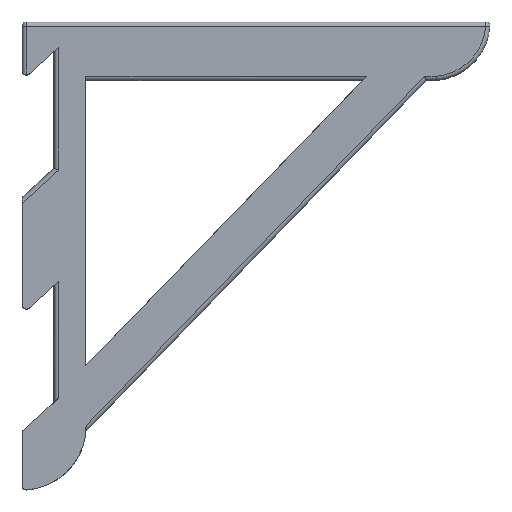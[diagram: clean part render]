
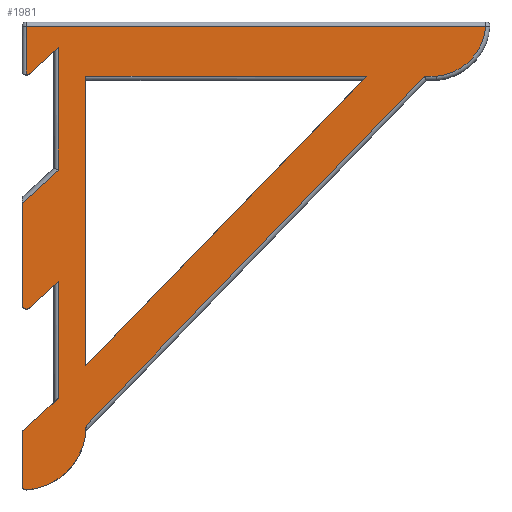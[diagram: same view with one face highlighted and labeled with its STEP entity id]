
A CAD part, top view. The second image highlights one B-rep face of the part: STEP entity #1981.
In plain terms, the highlighted planar face has unit normal (0, 0, 1).
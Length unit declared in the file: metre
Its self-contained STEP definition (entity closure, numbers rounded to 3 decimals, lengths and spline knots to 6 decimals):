
#92=CIRCLE('',#2109,0.019122);
#95=CIRCLE('',#2130,0.00127);
#96=CIRCLE('',#2131,0.00127);
#97=CIRCLE('',#2132,0.00127);
#98=CIRCLE('',#2133,0.016259);
#99=CIRCLE('',#2134,0.00127);
#333=ORIENTED_EDGE('',*,*,#901,.F.);
#334=ORIENTED_EDGE('',*,*,#927,.T.);
#335=ORIENTED_EDGE('',*,*,#928,.T.);
#336=ORIENTED_EDGE('',*,*,#807,.F.);
#337=ORIENTED_EDGE('',*,*,#929,.T.);
#338=ORIENTED_EDGE('',*,*,#912,.F.);
#339=ORIENTED_EDGE('',*,*,#930,.T.);
#340=ORIENTED_EDGE('',*,*,#918,.F.);
#341=ORIENTED_EDGE('',*,*,#931,.T.);
#342=ORIENTED_EDGE('',*,*,#920,.F.);
#343=ORIENTED_EDGE('',*,*,#932,.T.);
#344=ORIENTED_EDGE('',*,*,#879,.T.);
#345=ORIENTED_EDGE('',*,*,#933,.T.);
#346=ORIENTED_EDGE('',*,*,#934,.T.);
#347=ORIENTED_EDGE('',*,*,#935,.T.);
#348=ORIENTED_EDGE('',*,*,#936,.T.);
#349=ORIENTED_EDGE('',*,*,#937,.T.);
#350=ORIENTED_EDGE('',*,*,#938,.T.);
#351=ORIENTED_EDGE('',*,*,#939,.T.);
#352=ORIENTED_EDGE('',*,*,#925,.F.);
#353=ORIENTED_EDGE('',*,*,#871,.F.);
#807=EDGE_CURVE('',#1109,#1110,#1297,.T.);
#871=EDGE_CURVE('',#1173,#1169,#1330,.T.);
#879=EDGE_CURVE('',#1176,#1180,#92,.T.);
#901=EDGE_CURVE('',#1199,#1195,#1354,.T.);
#912=EDGE_CURVE('',#1208,#1204,#1364,.T.);
#918=EDGE_CURVE('',#1212,#1213,#1370,.T.);
#920=EDGE_CURVE('',#1214,#1215,#1371,.T.);
#925=EDGE_CURVE('',#1169,#1218,#1376,.T.);
#927=EDGE_CURVE('',#1199,#1219,#1377,.T.);
#928=EDGE_CURVE('',#1219,#1110,#1378,.F.);
#929=EDGE_CURVE('',#1109,#1204,#95,.T.);
#930=EDGE_CURVE('',#1208,#1213,#1379,.F.);
#931=EDGE_CURVE('',#1212,#1215,#96,.T.);
#932=EDGE_CURVE('',#1214,#1176,#97,.T.);
#933=EDGE_CURVE('',#1180,#1220,#1380,.F.);
#934=EDGE_CURVE('',#1220,#1221,#1381,.T.);
#935=EDGE_CURVE('',#1221,#1222,#98,.T.);
#936=EDGE_CURVE('',#1222,#1223,#1382,.F.);
#937=EDGE_CURVE('',#1223,#1224,#1383,.F.);
#938=EDGE_CURVE('',#1224,#1195,#99,.T.);
#939=EDGE_CURVE('',#1173,#1218,#1384,.T.);
#1109=VERTEX_POINT('',#2772);
#1110=VERTEX_POINT('',#2773);
#1169=VERTEX_POINT('',#2941);
#1173=VERTEX_POINT('',#2948);
#1176=VERTEX_POINT('',#2958);
#1180=VERTEX_POINT('',#2970);
#1195=VERTEX_POINT('',#3010);
#1199=VERTEX_POINT('',#3017);
#1204=VERTEX_POINT('',#3033);
#1208=VERTEX_POINT('',#3040);
#1212=VERTEX_POINT('',#3052);
#1213=VERTEX_POINT('',#3054);
#1214=VERTEX_POINT('',#3058);
#1215=VERTEX_POINT('',#3059);
#1218=VERTEX_POINT('',#3068);
#1219=VERTEX_POINT('',#3072);
#1220=VERTEX_POINT('',#3079);
#1221=VERTEX_POINT('',#3081);
#1222=VERTEX_POINT('',#3083);
#1223=VERTEX_POINT('',#3085);
#1224=VERTEX_POINT('',#3087);
#1297=LINE('',#2771,#1481);
#1330=LINE('',#2949,#1514);
#1354=LINE('',#3018,#1538);
#1364=LINE('',#3041,#1548);
#1370=LINE('',#3053,#1554);
#1371=LINE('',#3057,#1555);
#1376=LINE('',#3067,#1560);
#1377=LINE('',#3071,#1561);
#1378=LINE('',#3073,#1562);
#1379=LINE('',#3075,#1563);
#1380=LINE('',#3078,#1564);
#1381=LINE('',#3080,#1565);
#1382=LINE('',#3084,#1566);
#1383=LINE('',#3086,#1567);
#1384=LINE('',#3089,#1568);
#1481=VECTOR('',#2263,1.);
#1514=VECTOR('',#2312,1.);
#1538=VECTOR('',#2362,1.);
#1548=VECTOR('',#2380,1.);
#1554=VECTOR('',#2390,1.);
#1555=VECTOR('',#2395,1.);
#1560=VECTOR('',#2402,1.);
#1561=VECTOR('',#2407,1.);
#1562=VECTOR('',#2408,1.);
#1563=VECTOR('',#2411,1.);
#1564=VECTOR('',#2416,1.);
#1565=VECTOR('',#2417,1.);
#1566=VECTOR('',#2420,1.);
#1567=VECTOR('',#2421,1.);
#1568=VECTOR('',#2424,1.);
#1686=EDGE_LOOP('',(#333,#334,#335,#336,#337,#338,#339,#340,#341,#342,#343,
#344,#345,#346,#347,#348,#349,#350));
#1687=EDGE_LOOP('',(#351,#352,#353));
#1812=FACE_BOUND('',#1686,.T.);
#1813=FACE_BOUND('',#1687,.T.);
#1932=PLANE('',#2129);
#1981=ADVANCED_FACE('',(#1812,#1813),#1932,.T.);
#2109=AXIS2_PLACEMENT_3D('',#2971,#2324,#2325);
#2129=AXIS2_PLACEMENT_3D('',#3070,#2405,#2406);
#2130=AXIS2_PLACEMENT_3D('',#3074,#2409,#2410);
#2131=AXIS2_PLACEMENT_3D('',#3076,#2412,#2413);
#2132=AXIS2_PLACEMENT_3D('',#3077,#2414,#2415);
#2133=AXIS2_PLACEMENT_3D('',#3082,#2418,#2419);
#2134=AXIS2_PLACEMENT_3D('',#3088,#2422,#2423);
#2263=DIRECTION('',(0.,1.,0.));
#2312=DIRECTION('',(0.,-1.,0.));
#2324=DIRECTION('',(0.,0.,1.));
#2325=DIRECTION('',(1.,0.,0.));
#2362=DIRECTION('',(-0.737,-0.676,0.));
#2380=DIRECTION('',(-0.737,-0.676,0.));
#2390=DIRECTION('',(0.737,0.676,0.));
#2395=DIRECTION('',(0.,1.,0.));
#2402=DIRECTION('',(0.696,0.718,0.));
#2405=DIRECTION('',(0.,0.,1.));
#2406=DIRECTION('',(1.,0.,0.));
#2407=DIRECTION('',(0.,-1.,0.));
#2408=DIRECTION('',(0.737,0.676,0.));
#2409=DIRECTION('',(0.,0.,1.));
#2410=DIRECTION('',(1.,0.,0.));
#2411=DIRECTION('',(0.,1.,0.));
#2412=DIRECTION('',(0.,0.,1.));
#2413=DIRECTION('',(1.,0.,0.));
#2414=DIRECTION('',(0.,0.,1.));
#2415=DIRECTION('',(1.,0.,0.));
#2416=DIRECTION('',(-0.696,-0.718,0.));
#2417=DIRECTION('',(1.,0.,0.));
#2418=DIRECTION('',(0.,0.,1.));
#2419=DIRECTION('',(1.,0.,0.));
#2420=DIRECTION('',(1.,0.,0.));
#2421=DIRECTION('',(0.,1.,0.));
#2422=DIRECTION('',(0.,0.,1.));
#2423=DIRECTION('',(1.,0.,0.));
#2424=DIRECTION('',(1.,0.,0.));
#2771=CARTESIAN_POINT('',(-0.009525,0.004366,0.01905));
#2772=CARTESIAN_POINT('',(-0.009525,-0.014575,0.01905));
#2773=CARTESIAN_POINT('',(-0.009525,0.01574,0.01905));
#2941=CARTESIAN_POINT('',(0.009525,-0.032742,0.01905));
#2948=CARTESIAN_POINT('',(0.009525,0.053658,0.01905));
#2949=CARTESIAN_POINT('',(0.009525,-0.016371,0.01905));
#2958=CARTESIAN_POINT('',(-0.008165,-0.069802,0.01905));
#2970=CARTESIAN_POINT('',(0.009596,-0.05049,0.01905));
#2971=CARTESIAN_POINT('',(-0.009525,-0.050728,0.01905));
#3010=CARTESIAN_POINT('',(-0.007397,0.054338,0.01905));
#3017=CARTESIAN_POINT('',(0.00127,0.062283,0.01905));
#3018=CARTESIAN_POINT('',(-0.004763,0.056753,0.01905));
#3033=CARTESIAN_POINT('',(-0.007397,-0.015512,0.01905));
#3040=CARTESIAN_POINT('',(0.00127,-0.007567,0.01905));
#3041=CARTESIAN_POINT('',(-0.004763,-0.013097,0.01905));
#3052=CARTESIAN_POINT('',(-0.009113,-0.05201,0.01905));
#3053=CARTESIAN_POINT('',(-0.004763,-0.048022,0.01905));
#3054=CARTESIAN_POINT('',(0.00127,-0.042492,0.01905));
#3057=CARTESIAN_POINT('',(-0.009525,-0.061119,0.01905));
#3058=CARTESIAN_POINT('',(-0.009525,-0.068535,0.01905));
#3059=CARTESIAN_POINT('',(-0.009525,-0.052946,0.01905));
#3067=CARTESIAN_POINT('',(0.0508,0.009823,0.01905));
#3068=CARTESIAN_POINT('',(0.093307,0.053658,0.01905));
#3070=CARTESIAN_POINT('',(0.060325,0.,0.01905));
#3071=CARTESIAN_POINT('',(0.00127,0.026194,0.01905));
#3072=CARTESIAN_POINT('',(0.00127,0.025635,0.01905));
#3073=CARTESIAN_POINT('',(0.020591,0.043346,0.01905));
#3074=CARTESIAN_POINT('',(-0.008255,-0.014575,0.01905));
#3075=CARTESIAN_POINT('',(0.00127,0.,0.01905));
#3076=CARTESIAN_POINT('',(-0.008255,-0.052946,0.01905));
#3077=CARTESIAN_POINT('',(-0.008255,-0.068535,0.01905));
#3078=CARTESIAN_POINT('',(0.059413,0.000884,0.01905));
#3079=CARTESIAN_POINT('',(0.110587,0.053658,0.01905));
#3080=CARTESIAN_POINT('',(0.114168,0.053658,0.01905));
#3081=CARTESIAN_POINT('',(0.114111,0.053658,0.01905));
#3082=CARTESIAN_POINT('',(0.112646,0.06985,0.01905));
#3083=CARTESIAN_POINT('',(0.128855,0.06858,0.01905));
#3084=CARTESIAN_POINT('',(0.060325,0.06858,0.01905));
#3085=CARTESIAN_POINT('',(-0.008255,0.06858,0.01905));
#3086=CARTESIAN_POINT('',(-0.008255,0.,0.01905));
#3087=CARTESIAN_POINT('',(-0.008255,0.054005,0.01905));
#3088=CARTESIAN_POINT('',(-0.008255,0.055275,0.01905));
#3089=CARTESIAN_POINT('',(0.092075,0.053658,0.01905));
